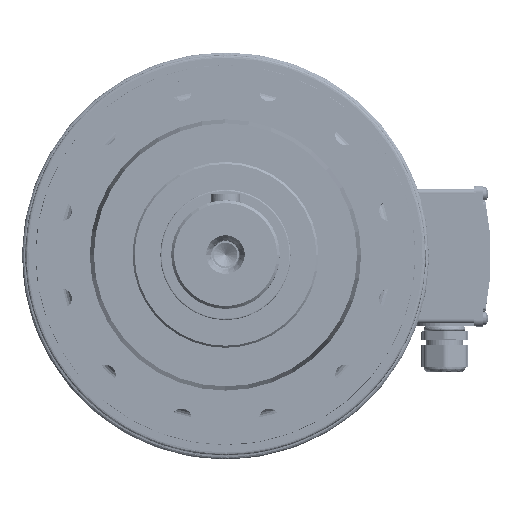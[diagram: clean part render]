
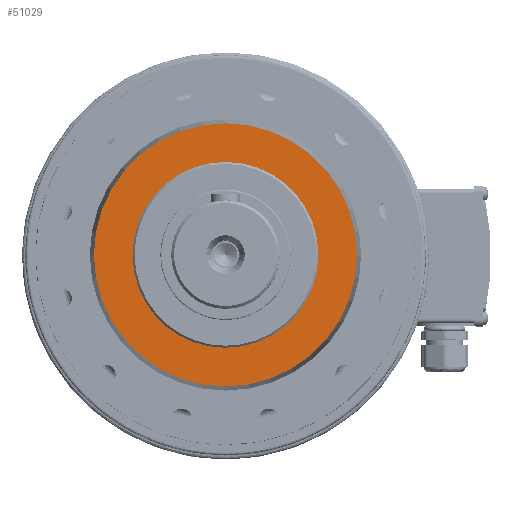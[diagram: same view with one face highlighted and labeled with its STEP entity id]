
A CAD part, top view. The second image highlights one B-rep face of the part: STEP entity #51029.
In plain terms, the highlighted planar face has unit normal (0, 0, 1).
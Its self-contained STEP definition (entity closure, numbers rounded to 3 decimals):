
#2249 = FACE_BOUND ( 'NONE', #102598, .T. ) ;
#2251 = FACE_OUTER_BOUND ( 'NONE', #102767, .T. ) ;
#6353 = VERTEX_POINT ( 'NONE', #44101 ) ;
#6432 = VERTEX_POINT ( 'NONE', #44362 ) ;
#6467 = VERTEX_POINT ( 'NONE', #44425 ) ;
#6489 = VERTEX_POINT ( 'NONE', #44405 ) ;
#12472 = AXIS2_PLACEMENT_3D ( 'NONE', #191960, #191940, #191916 ) ;
#12480 = AXIS2_PLACEMENT_3D ( 'NONE', #79281, #79210, #79262 ) ;
#12495 = AXIS2_PLACEMENT_3D ( 'NONE', #191934, #191946, #191949 ) ;
#12524 = AXIS2_PLACEMENT_3D ( 'NONE', #79304, #79409, #79384 ) ;
#44101 = CARTESIAN_POINT ( 'NONE',  ( -68.5, 0., 147. ) ) ;
#44362 = CARTESIAN_POINT ( 'NONE',  ( 0., 97., 147. ) ) ;
#44405 = CARTESIAN_POINT ( 'NONE',  ( 0., -97., 147. ) ) ;
#44425 = CARTESIAN_POINT ( 'NONE',  ( 68.5, 0., 147. ) ) ;
#51029 = ADVANCED_FACE ( 'NONE', ( #2249, #2251 ), #120662, .F. ) ;
#79210 = DIRECTION ( 'NONE',  ( 0., 0., -1. ) ) ;
#79262 = DIRECTION ( 'NONE',  ( 0., 1., 0. ) ) ;
#79281 = CARTESIAN_POINT ( 'NONE',  ( 0., 0., 147. ) ) ;
#79304 = CARTESIAN_POINT ( 'NONE',  ( 0., 0., 147. ) ) ;
#79384 = DIRECTION ( 'NONE',  ( -1., 0., 0. ) ) ;
#79409 = DIRECTION ( 'NONE',  ( 0., 0., 1. ) ) ;
#102598 = EDGE_LOOP ( 'NONE', ( #154850, #155106 ) ) ;
#102767 = EDGE_LOOP ( 'NONE', ( #154972, #155063 ) ) ;
#120550 = DIRECTION ( 'NONE',  ( 0., 1., 0. ) ) ;
#120564 = CARTESIAN_POINT ( 'NONE',  ( 0., 97., 147. ) ) ;
#120645 = DIRECTION ( 'NONE',  ( 0., 0., -1. ) ) ;
#120662 = PLANE ( 'NONE',  #143396 ) ;
#143396 = AXIS2_PLACEMENT_3D ( 'NONE', #120564, #120645, #120550 ) ;
#154850 = ORIENTED_EDGE ( 'NONE', *, *, #196881, .F. ) ;
#154972 = ORIENTED_EDGE ( 'NONE', *, *, #196792, .F. ) ;
#155063 = ORIENTED_EDGE ( 'NONE', *, *, #196859, .F. ) ;
#155106 = ORIENTED_EDGE ( 'NONE', *, *, #196798, .F. ) ;
#191916 = DIRECTION ( 'NONE',  ( 0., 1., 0. ) ) ;
#191934 = CARTESIAN_POINT ( 'NONE',  ( 0., 0., 147. ) ) ;
#191940 = DIRECTION ( 'NONE',  ( 0., 0., -1. ) ) ;
#191946 = DIRECTION ( 'NONE',  ( 0., 0., 1. ) ) ;
#191949 = DIRECTION ( 'NONE',  ( -1., 0., 0. ) ) ;
#191960 = CARTESIAN_POINT ( 'NONE',  ( 0., 0., 147. ) ) ;
#196792 = EDGE_CURVE ( 'NONE', #6432, #6489, #203518, .T. ) ;
#196798 = EDGE_CURVE ( 'NONE', #6467, #6353, #203536, .T. ) ;
#196859 = EDGE_CURVE ( 'NONE', #6489, #6432, #203899, .T. ) ;
#196881 = EDGE_CURVE ( 'NONE', #6353, #6467, #204156, .T. ) ;
#203518 = CIRCLE ( 'NONE', #12472, 97. ) ;
#203536 = CIRCLE ( 'NONE', #12495, 68.5 ) ;
#203899 = CIRCLE ( 'NONE', #12480, 97. ) ;
#204156 = CIRCLE ( 'NONE', #12524, 68.5 ) ;
